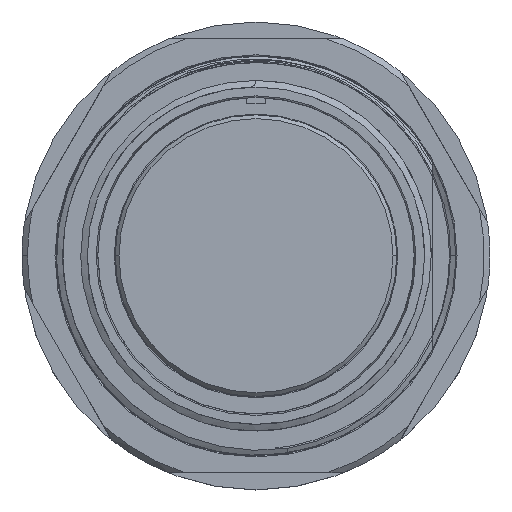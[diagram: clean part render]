
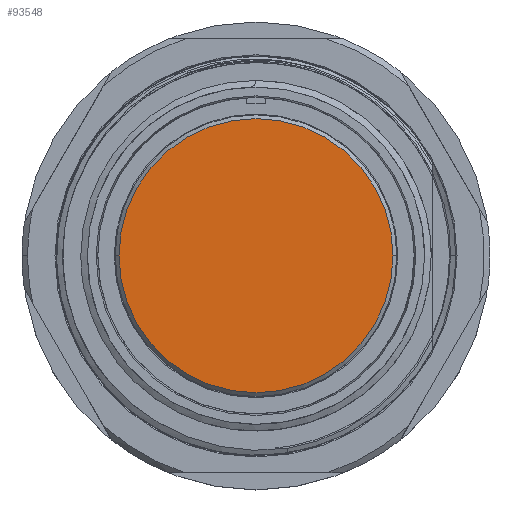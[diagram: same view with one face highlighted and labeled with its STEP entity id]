
A CAD part, top view. The second image highlights one B-rep face of the part: STEP entity #93548.
In plain terms, the highlighted planar face has unit normal (0, 0, 1).
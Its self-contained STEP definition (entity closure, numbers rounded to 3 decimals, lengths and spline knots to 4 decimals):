
#4110 = FACE_OUTER_BOUND ( 'NONE', #58529, .T. ) ;
#5996 = CARTESIAN_POINT ( 'NONE',  ( -0.7295, 0., -0.018 ) ) ;
#6486 = VERTEX_POINT ( 'NONE', #19834 ) ;
#14182 = PLANE ( 'NONE',  #73362 ) ;
#16494 = CARTESIAN_POINT ( 'NONE',  ( 0., 0., -0.018 ) ) ;
#19834 = CARTESIAN_POINT ( 'NONE',  ( 0.7295, 0., -0.018 ) ) ;
#28299 = AXIS2_PLACEMENT_3D ( 'NONE', #107103, #99495, #116528 ) ;
#36402 = ORIENTED_EDGE ( 'NONE', *, *, #65438, .T. ) ;
#42960 = DIRECTION ( 'NONE',  ( 0., 0., 1. ) ) ;
#46589 = AXIS2_PLACEMENT_3D ( 'NONE', #16494, #42960, #119712 ) ;
#58529 = EDGE_LOOP ( 'NONE', ( #36402, #75362 ) ) ;
#60799 = DIRECTION ( 'NONE',  ( 1., 0., 0. ) ) ;
#65438 = EDGE_CURVE ( 'NONE', #113316, #6486, #78526, .T. ) ;
#73362 = AXIS2_PLACEMENT_3D ( 'NONE', #99777, #99167, #60799 ) ;
#75362 = ORIENTED_EDGE ( 'NONE', *, *, #79188, .T. ) ;
#78526 = CIRCLE ( 'NONE', #28299, 0.7295 ) ;
#79188 = EDGE_CURVE ( 'NONE', #6486, #113316, #96847, .T. ) ;
#93548 = ADVANCED_FACE ( 'NONE', ( #4110 ), #14182, .T. ) ;
#96847 = CIRCLE ( 'NONE', #46589, 0.7295 ) ;
#99167 = DIRECTION ( 'NONE',  ( 0., 0., 1. ) ) ;
#99495 = DIRECTION ( 'NONE',  ( 0., 0., 1. ) ) ;
#99777 = CARTESIAN_POINT ( 'NONE',  ( 0., 0., -0.018 ) ) ;
#107103 = CARTESIAN_POINT ( 'NONE',  ( 0., 0., -0.018 ) ) ;
#113316 = VERTEX_POINT ( 'NONE', #5996 ) ;
#116528 = DIRECTION ( 'NONE',  ( 1., 0., 0. ) ) ;
#119712 = DIRECTION ( 'NONE',  ( 1., 0., 0. ) ) ;
